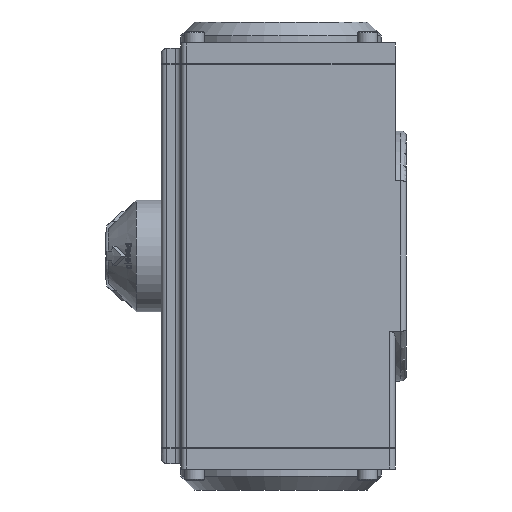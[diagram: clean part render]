
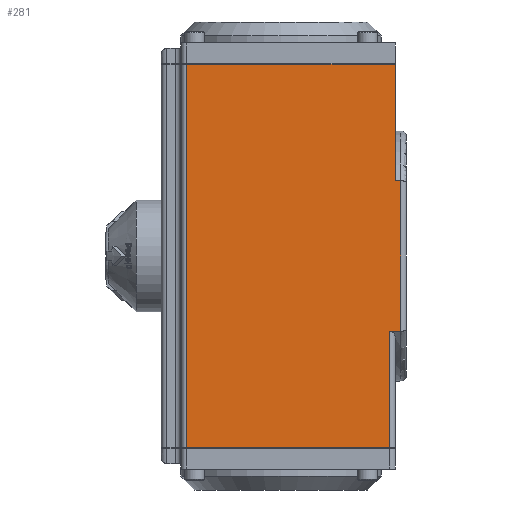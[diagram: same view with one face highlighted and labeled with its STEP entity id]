
A CAD part, left-side view. The second image highlights one B-rep face of the part: STEP entity #281.
In plain terms, the highlighted planar face has unit normal (-1, 0, 0).
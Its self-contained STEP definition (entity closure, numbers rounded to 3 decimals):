
#281=ADVANCED_FACE('',(#9191),#9193,.T.);
#9191=FACE_BOUND('',#9192,.T.);
#9192=EDGE_LOOP('',(#16403,#16404,#16405,#16406,#16407,#16408,#16409,#16410));
#9193=PLANE('',#9194);
#9194=AXIS2_PLACEMENT_3D('',#9195,#9196,#9197);
#9195=CARTESIAN_POINT('',(-36.,36.,-76.5));
#9196=DIRECTION('',(-1.,0.,0.));
#9197=DIRECTION('',(0.,-1.,0.));
#16403=ORIENTED_EDGE('',*,*,#22437,.T.);
#16404=ORIENTED_EDGE('',*,*,#22438,.T.);
#16405=ORIENTED_EDGE('',*,*,#22439,.T.);
#16406=ORIENTED_EDGE('',*,*,#22440,.T.);
#16407=ORIENTED_EDGE('',*,*,#22441,.T.);
#16408=ORIENTED_EDGE('',*,*,#22442,.T.);
#16409=ORIENTED_EDGE('',*,*,#22338,.T.);
#16410=ORIENTED_EDGE('',*,*,#22436,.F.);
#22338=EDGE_CURVE('',#24868,#24866,#24869,.T.);
#22436=EDGE_CURVE('',#25051,#24866,#25053,.T.);
#22437=EDGE_CURVE('',#25051,#25054,#25055,.F.);
#22438=EDGE_CURVE('',#25054,#25056,#25057,.T.);
#22439=EDGE_CURVE('',#25056,#25058,#25059,.T.);
#22440=EDGE_CURVE('',#25058,#25060,#25061,.T.);
#22441=EDGE_CURVE('',#25060,#25062,#25063,.F.);
#22442=EDGE_CURVE('',#25062,#24868,#25064,.T.);
#24866=VERTEX_POINT('',#29023);
#24868=VERTEX_POINT('',#29028);
#24869=LINE('',#29029,#29030);
#25051=VERTEX_POINT('',#29434);
#25053=LINE('',#29439,#29440);
#25054=VERTEX_POINT('',#29442);
#25055=LINE('',#29443,#29444);
#25056=VERTEX_POINT('',#29446);
#25057=LINE('',#29447,#29448);
#25058=VERTEX_POINT('',#29450);
#25059=LINE('',#29451,#29452);
#25060=VERTEX_POINT('',#29454);
#25061=LINE('',#29455,#29456);
#25062=VERTEX_POINT('',#29458);
#25063=LINE('',#29459,#29460);
#25064=LINE('',#29462,#29463);
#29023=CARTESIAN_POINT('',(-36.,34.,68.9));
#29028=CARTESIAN_POINT('',(-36.,-41.,68.9));
#29029=CARTESIAN_POINT('',(-36.,-41.,68.9));
#29030=VECTOR('',#29031,1.);
#29031=DIRECTION('',(0.,1.,0.));
#29434=CARTESIAN_POINT('',(-36.,34.,-68.9));
#29439=CARTESIAN_POINT('',(-36.,34.,-68.9));
#29440=VECTOR('',#29441,1.);
#29441=DIRECTION('',(0.,0.,1.));
#29442=CARTESIAN_POINT('',(-36.,-39.,-68.9));
#29443=CARTESIAN_POINT('',(-36.,-39.,-68.9));
#29444=VECTOR('',#29445,1.);
#29445=DIRECTION('',(0.,1.,0.));
#29446=CARTESIAN_POINT('',(-36.,-39.,-27.));
#29447=CARTESIAN_POINT('',(-36.,-39.,-68.9));
#29448=VECTOR('',#29449,1.);
#29449=DIRECTION('',(0.,0.,1.));
#29450=CARTESIAN_POINT('',(-36.,-43.,-27.));
#29451=CARTESIAN_POINT('',(-36.,-39.,-27.));
#29452=VECTOR('',#29453,1.);
#29453=DIRECTION('',(0.,-1.,0.));
#29454=CARTESIAN_POINT('',(-36.,-43.,27.));
#29455=CARTESIAN_POINT('',(-36.,-43.,-27.));
#29456=VECTOR('',#29457,1.);
#29457=DIRECTION('',(0.,0.,1.));
#29458=CARTESIAN_POINT('',(-36.,-41.,27.));
#29459=CARTESIAN_POINT('',(-36.,-41.,27.));
#29460=VECTOR('',#29461,1.);
#29461=DIRECTION('',(0.,-1.,0.));
#29462=CARTESIAN_POINT('',(-36.,-41.,27.));
#29463=VECTOR('',#29464,1.);
#29464=DIRECTION('',(0.,0.,1.));
